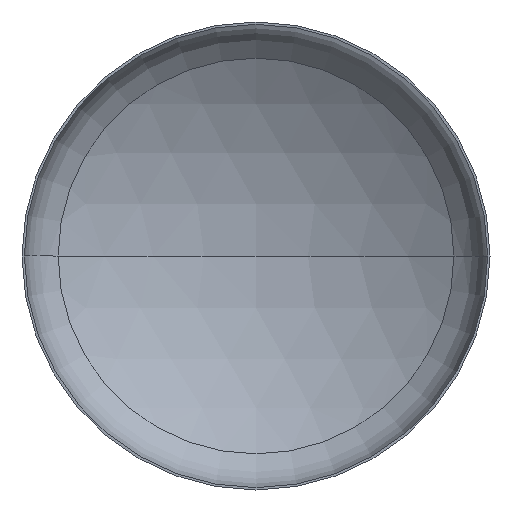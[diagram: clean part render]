
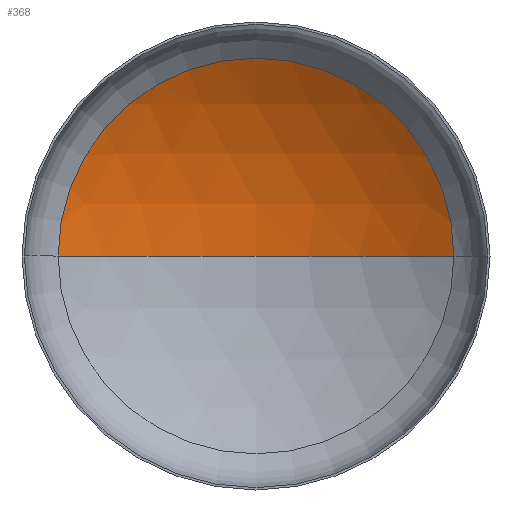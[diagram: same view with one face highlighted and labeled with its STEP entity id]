
A CAD part, front view. The second image highlights one B-rep face of the part: STEP entity #368.
In plain terms, the highlighted spherical face has radius 2560 mm.
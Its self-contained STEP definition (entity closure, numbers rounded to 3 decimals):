
#9 = DIRECTION ( 'NONE',  ( 1., 0., 0. ) ) ;
#10 = AXIS2_PLACEMENT_3D ( 'NONE', #321, #234, #49 ) ;
#12 = DIRECTION ( 'NONE',  ( 0., -1., 0. ) ) ;
#14 = CIRCLE ( 'NONE', #59, 2560. ) ;
#17 = CARTESIAN_POINT ( 'NONE',  ( 0., 470.977, 0. ) ) ;
#18 = EDGE_LOOP ( 'NONE', ( #112, #117, #52 ) ) ;
#49 = DIRECTION ( 'NONE',  ( 1., 0., 0. ) ) ;
#52 = ORIENTED_EDGE ( 'NONE', *, *, #140, .T. ) ;
#53 = DIRECTION ( 'NONE',  ( 0., 0., -1. ) ) ;
#59 = AXIS2_PLACEMENT_3D ( 'NONE', #408, #53, #286 ) ;
#61 = AXIS2_PLACEMENT_3D ( 'NONE', #17, #12, #9 ) ;
#70 = VERTEX_POINT ( 'NONE', #359 ) ;
#73 = DIRECTION ( 'NONE',  ( -1., 0., 0. ) ) ;
#102 = SPHERICAL_SURFACE ( 'NONE', #279, 2560. ) ;
#112 = ORIENTED_EDGE ( 'NONE', *, *, #352, .F. ) ;
#117 = ORIENTED_EDGE ( 'NONE', *, *, #143, .T. ) ;
#140 = EDGE_CURVE ( 'NONE', #70, #166, #256, .T. ) ;
#143 = EDGE_CURVE ( 'NONE', #207, #70, #14, .T. ) ;
#166 = VERTEX_POINT ( 'NONE', #183 ) ;
#174 = CARTESIAN_POINT ( 'NONE',  ( 0., -1702.289, 0. ) ) ;
#183 = CARTESIAN_POINT ( 'NONE',  ( -1352.966, 470.977, 0. ) ) ;
#203 = DIRECTION ( 'NONE',  ( 0., 0., -1. ) ) ;
#207 = VERTEX_POINT ( 'NONE', #272 ) ;
#234 = DIRECTION ( 'NONE',  ( 0., 0., 1. ) ) ;
#256 = CIRCLE ( 'NONE', #61, 1352.966 ) ;
#272 = CARTESIAN_POINT ( 'NONE',  ( 0., 857.711, 0. ) ) ;
#276 = FACE_OUTER_BOUND ( 'NONE', #18, .T. ) ;
#279 = AXIS2_PLACEMENT_3D ( 'NONE', #174, #203, #73 ) ;
#286 = DIRECTION ( 'NONE',  ( -1., 0., 0. ) ) ;
#321 = CARTESIAN_POINT ( 'NONE',  ( 0., -1702.289, 0. ) ) ;
#352 = EDGE_CURVE ( 'NONE', #207, #166, #388, .T. ) ;
#359 = CARTESIAN_POINT ( 'NONE',  ( 1352.966, 470.977, 0. ) ) ;
#368 = ADVANCED_FACE ( 'NONE', ( #276 ), #102, .F. ) ;
#388 = CIRCLE ( 'NONE', #10, 2560. ) ;
#408 = CARTESIAN_POINT ( 'NONE',  ( 0., -1702.289, 0. ) ) ;
